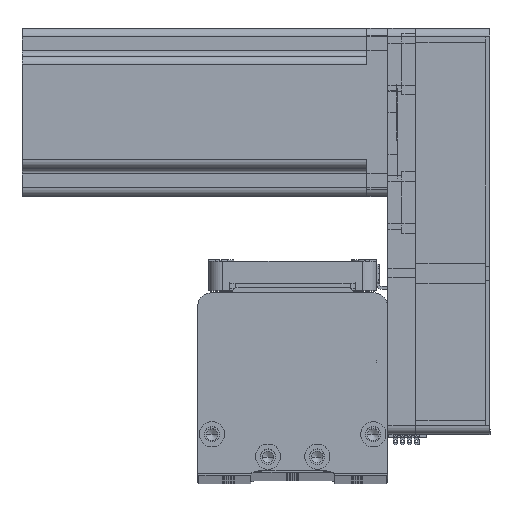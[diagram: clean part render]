
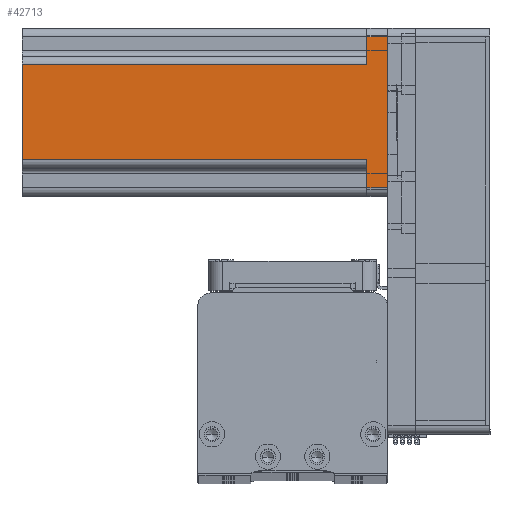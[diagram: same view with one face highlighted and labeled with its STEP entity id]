
A CAD part, top view. The second image highlights one B-rep face of the part: STEP entity #42713.
In plain terms, the highlighted planar face has unit normal (0, 0, 1) as drawn and (0, -1, 0) by its records, which use the part's own axes.
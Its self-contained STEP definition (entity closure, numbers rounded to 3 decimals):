
#329 = LINE ( 'NONE', #10021, #53822 ) ;
#1417 = ORIENTED_EDGE ( 'NONE', *, *, #45761, .T. ) ;
#1550 = CARTESIAN_POINT ( 'NONE',  ( -17., -30., 130.7 ) ) ;
#1674 = CARTESIAN_POINT ( 'NONE',  ( -27., -30., 7.5 ) ) ;
#1805 = LINE ( 'NONE', #41657, #45392 ) ;
#3017 = EDGE_CURVE ( 'NONE', #25763, #26321, #11040, .T. ) ;
#3141 = VERTEX_POINT ( 'NONE', #1550 ) ;
#3429 = CARTESIAN_POINT ( 'NONE',  ( 20., -30., 7.5 ) ) ;
#4424 = EDGE_CURVE ( 'NONE', #32187, #25763, #46228, .T. ) ;
#5038 = EDGE_CURVE ( 'NONE', #14585, #32187, #48066, .T. ) ;
#6036 = CARTESIAN_POINT ( 'NONE',  ( -17., -30., 7.5 ) ) ;
#6041 = VERTEX_POINT ( 'NONE', #31566 ) ;
#9063 = EDGE_CURVE ( 'NONE', #14585, #31637, #43040, .T. ) ;
#10021 = CARTESIAN_POINT ( 'NONE',  ( 30., -30., 130.7 ) ) ;
#10455 = ORIENTED_EDGE ( 'NONE', *, *, #18818, .T. ) ;
#10751 = LINE ( 'NONE', #27003, #23345 ) ;
#11040 = LINE ( 'NONE', #30335, #44756 ) ;
#11895 = DIRECTION ( 'NONE',  ( -1., 0., 0. ) ) ;
#11974 = VECTOR ( 'NONE', #54359, 1000. ) ;
#14239 = DIRECTION ( 'NONE',  ( 0., 0., 1. ) ) ;
#14585 = VERTEX_POINT ( 'NONE', #1674 ) ;
#15528 = DIRECTION ( 'NONE',  ( 1., 0., 0. ) ) ;
#15831 = AXIS2_PLACEMENT_3D ( 'NONE', #23972, #53467, #28217 ) ;
#15909 = EDGE_LOOP ( 'NONE', ( #46176, #10455, #42996, #28291, #24209, #44670, #1417, #51557 ) ) ;
#18818 = EDGE_CURVE ( 'NONE', #3141, #31637, #1805, .T. ) ;
#19714 = CARTESIAN_POINT ( 'NONE',  ( 30., -30., 0. ) ) ;
#22433 = VECTOR ( 'NONE', #15528, 1000. ) ;
#22795 = DIRECTION ( 'NONE',  ( 1., 0., 0. ) ) ;
#23345 = VECTOR ( 'NONE', #14239, 1000. ) ;
#23972 = CARTESIAN_POINT ( 'NONE',  ( 30., -30., 130.7 ) ) ;
#24209 = ORIENTED_EDGE ( 'NONE', *, *, #4424, .T. ) ;
#24905 = VERTEX_POINT ( 'NONE', #29250 ) ;
#25763 = VERTEX_POINT ( 'NONE', #26788 ) ;
#26002 = CARTESIAN_POINT ( 'NONE',  ( 27., -30., 7.5 ) ) ;
#26321 = VERTEX_POINT ( 'NONE', #26002 ) ;
#26788 = CARTESIAN_POINT ( 'NONE',  ( 27., -30., 0. ) ) ;
#27003 = CARTESIAN_POINT ( 'NONE',  ( 17., -30., 130.7 ) ) ;
#28194 = FACE_OUTER_BOUND ( 'NONE', #15909, .T. ) ;
#28217 = DIRECTION ( 'NONE',  ( -1., 0., 0. ) ) ;
#28291 = ORIENTED_EDGE ( 'NONE', *, *, #5038, .T. ) ;
#29094 = CARTESIAN_POINT ( 'NONE',  ( -20., -30., 7.5 ) ) ;
#29250 = CARTESIAN_POINT ( 'NONE',  ( 17., -30., 7.5 ) ) ;
#29416 = LINE ( 'NONE', #3429, #50554 ) ;
#30335 = CARTESIAN_POINT ( 'NONE',  ( 27., -30., 130.7 ) ) ;
#31566 = CARTESIAN_POINT ( 'NONE',  ( 17., -30., 130.7 ) ) ;
#31637 = VERTEX_POINT ( 'NONE', #6036 ) ;
#32187 = VERTEX_POINT ( 'NONE', #35354 ) ;
#33358 = DIRECTION ( 'NONE',  ( 0., 0., -1. ) ) ;
#35354 = CARTESIAN_POINT ( 'NONE',  ( -27., -30., 0. ) ) ;
#35519 = VECTOR ( 'NONE', #35967, 1000. ) ;
#35967 = DIRECTION ( 'NONE',  ( 0., 0., -1. ) ) ;
#40383 = CARTESIAN_POINT ( 'NONE',  ( -27., -30., 130.7 ) ) ;
#41657 = CARTESIAN_POINT ( 'NONE',  ( -17., -30., 130.7 ) ) ;
#42713 = ADVANCED_FACE ( 'NONE', ( #28194 ), #49051, .F. ) ;
#42721 = DIRECTION ( 'NONE',  ( 0., 0., 1. ) ) ;
#42996 = ORIENTED_EDGE ( 'NONE', *, *, #9063, .F. ) ;
#43040 = LINE ( 'NONE', #29094, #11974 ) ;
#44670 = ORIENTED_EDGE ( 'NONE', *, *, #3017, .T. ) ;
#44756 = VECTOR ( 'NONE', #42721, 1000. ) ;
#45392 = VECTOR ( 'NONE', #33358, 1000. ) ;
#45761 = EDGE_CURVE ( 'NONE', #26321, #24905, #29416, .T. ) ;
#46176 = ORIENTED_EDGE ( 'NONE', *, *, #49985, .F. ) ;
#46228 = LINE ( 'NONE', #19714, #22433 ) ;
#46560 = EDGE_CURVE ( 'NONE', #24905, #6041, #10751, .T. ) ;
#48066 = LINE ( 'NONE', #40383, #35519 ) ;
#49051 = PLANE ( 'NONE',  #15831 ) ;
#49985 = EDGE_CURVE ( 'NONE', #3141, #6041, #329, .T. ) ;
#50554 = VECTOR ( 'NONE', #11895, 1000. ) ;
#51557 = ORIENTED_EDGE ( 'NONE', *, *, #46560, .T. ) ;
#53467 = DIRECTION ( 'NONE',  ( 0., 1., 0. ) ) ;
#53822 = VECTOR ( 'NONE', #22795, 1000. ) ;
#54359 = DIRECTION ( 'NONE',  ( 1., 0., 0. ) ) ;
